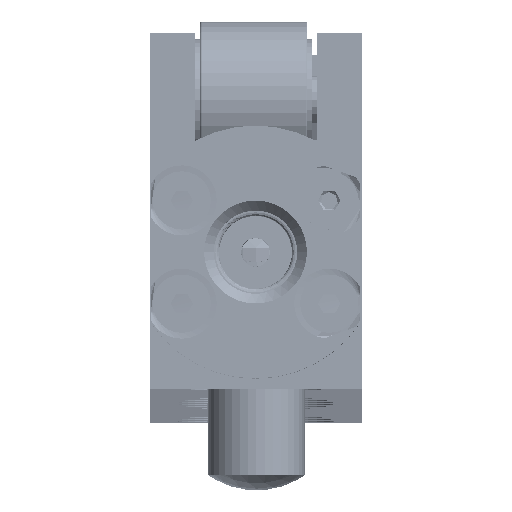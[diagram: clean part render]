
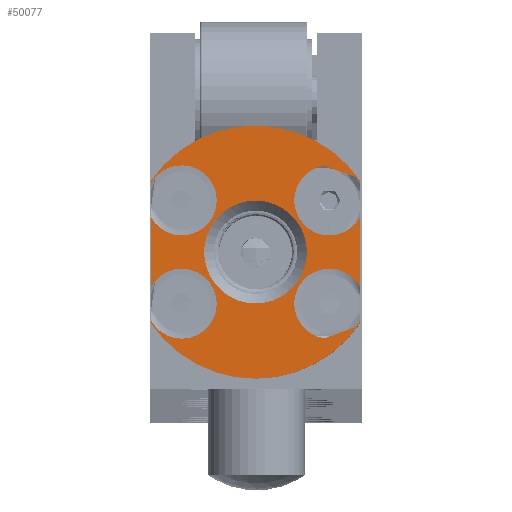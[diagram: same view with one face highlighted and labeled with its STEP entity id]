
A CAD part, top view. The second image highlights one B-rep face of the part: STEP entity #50077.
In plain terms, the highlighted planar face has unit normal (0, 0, 1).
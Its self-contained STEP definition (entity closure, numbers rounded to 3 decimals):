
#1818=FACE_BOUND('',#7761,.T.);
#2243=PLANE('',#54739);
#4720=FACE_OUTER_BOUND('',#7760,.T.);
#7760=EDGE_LOOP('',(#37721,#37722,#37723,#37724,#37725,#37726,#37727,#37728,
#37729,#37730,#37731,#37732,#37733,#37734,#37735,#37736));
#7761=EDGE_LOOP('',(#37737));
#10436=LINE('',#90156,#12257);
#10437=LINE('',#90159,#12258);
#10438=LINE('',#90163,#12259);
#10439=LINE('',#90167,#12260);
#10440=LINE('',#90171,#12261);
#10441=LINE('',#90175,#12262);
#10442=LINE('',#90179,#12263);
#10443=LINE('',#90182,#12264);
#12257=VECTOR('',#66389,10.);
#12258=VECTOR('',#66392,10.);
#12259=VECTOR('',#66395,10.);
#12260=VECTOR('',#66398,10.);
#12261=VECTOR('',#66401,10.);
#12262=VECTOR('',#66404,10.);
#12263=VECTOR('',#66407,10.);
#12264=VECTOR('',#66410,10.);
#14754=CIRCLE('',#54732,3.6);
#14757=CIRCLE('',#54735,3.6);
#14759=CIRCLE('',#54740,3.6);
#14760=CIRCLE('',#54741,3.6);
#14761=CIRCLE('',#54742,13.);
#14762=CIRCLE('',#54743,3.6);
#14763=CIRCLE('',#54744,3.6);
#14764=CIRCLE('',#54745,13.);
#14765=CIRCLE('',#54746,5.283);
#20325=VERTEX_POINT('',#90130);
#20326=VERTEX_POINT('',#90131);
#20327=VERTEX_POINT('',#90135);
#20331=VERTEX_POINT('',#90146);
#20333=VERTEX_POINT('',#90158);
#20334=VERTEX_POINT('',#90160);
#20335=VERTEX_POINT('',#90162);
#20336=VERTEX_POINT('',#90164);
#20337=VERTEX_POINT('',#90166);
#20338=VERTEX_POINT('',#90168);
#20339=VERTEX_POINT('',#90170);
#20340=VERTEX_POINT('',#90172);
#20341=VERTEX_POINT('',#90174);
#20342=VERTEX_POINT('',#90176);
#20343=VERTEX_POINT('',#90178);
#20344=VERTEX_POINT('',#90180);
#20345=VERTEX_POINT('',#90183);
#26729=EDGE_CURVE('',#20327,#20325,#14754,.T.);
#26735=EDGE_CURVE('',#20326,#20331,#14757,.T.);
#26738=EDGE_CURVE('',#20331,#20327,#10436,.T.);
#26739=EDGE_CURVE('',#20325,#20333,#10437,.T.);
#26740=EDGE_CURVE('',#20333,#20334,#14759,.T.);
#26741=EDGE_CURVE('',#20334,#20335,#10438,.T.);
#26742=EDGE_CURVE('',#20335,#20336,#14760,.T.);
#26743=EDGE_CURVE('',#20336,#20337,#10439,.T.);
#26744=EDGE_CURVE('',#20338,#20337,#14761,.T.);
#26745=EDGE_CURVE('',#20338,#20339,#10440,.T.);
#26746=EDGE_CURVE('',#20339,#20340,#14762,.T.);
#26747=EDGE_CURVE('',#20340,#20341,#10441,.T.);
#26748=EDGE_CURVE('',#20341,#20342,#14763,.T.);
#26749=EDGE_CURVE('',#20342,#20343,#10442,.T.);
#26750=EDGE_CURVE('',#20344,#20343,#14764,.T.);
#26751=EDGE_CURVE('',#20344,#20326,#10443,.T.);
#26752=EDGE_CURVE('',#20345,#20345,#14765,.T.);
#37721=ORIENTED_EDGE('',*,*,#26735,.T.);
#37722=ORIENTED_EDGE('',*,*,#26738,.T.);
#37723=ORIENTED_EDGE('',*,*,#26729,.T.);
#37724=ORIENTED_EDGE('',*,*,#26739,.T.);
#37725=ORIENTED_EDGE('',*,*,#26740,.T.);
#37726=ORIENTED_EDGE('',*,*,#26741,.T.);
#37727=ORIENTED_EDGE('',*,*,#26742,.T.);
#37728=ORIENTED_EDGE('',*,*,#26743,.T.);
#37729=ORIENTED_EDGE('',*,*,#26744,.F.);
#37730=ORIENTED_EDGE('',*,*,#26745,.T.);
#37731=ORIENTED_EDGE('',*,*,#26746,.T.);
#37732=ORIENTED_EDGE('',*,*,#26747,.T.);
#37733=ORIENTED_EDGE('',*,*,#26748,.T.);
#37734=ORIENTED_EDGE('',*,*,#26749,.T.);
#37735=ORIENTED_EDGE('',*,*,#26750,.F.);
#37736=ORIENTED_EDGE('',*,*,#26751,.T.);
#37737=ORIENTED_EDGE('',*,*,#26752,.F.);
#50077=ADVANCED_FACE('',(#4720,#1818),#2243,.T.);
#54732=AXIS2_PLACEMENT_3D('',#90136,#66373,#66374);
#54735=AXIS2_PLACEMENT_3D('',#90150,#66380,#66381);
#54739=AXIS2_PLACEMENT_3D('',#90157,#66390,#66391);
#54740=AXIS2_PLACEMENT_3D('',#90161,#66393,#66394);
#54741=AXIS2_PLACEMENT_3D('',#90165,#66396,#66397);
#54742=AXIS2_PLACEMENT_3D('',#90169,#66399,#66400);
#54743=AXIS2_PLACEMENT_3D('',#90173,#66402,#66403);
#54744=AXIS2_PLACEMENT_3D('',#90177,#66405,#66406);
#54745=AXIS2_PLACEMENT_3D('',#90181,#66408,#66409);
#54746=AXIS2_PLACEMENT_3D('',#90184,#66411,#66412);
#66373=DIRECTION('center_axis',(0.,0.,-1.));
#66374=DIRECTION('ref_axis',(-0.342,0.94,0.));
#66380=DIRECTION('center_axis',(0.,0.,-1.));
#66381=DIRECTION('ref_axis',(-0.342,0.94,0.));
#66389=DIRECTION('',(-0.94,-0.342,0.));
#66390=DIRECTION('center_axis',(0.,0.,1.));
#66391=DIRECTION('ref_axis',(1.,0.,0.));
#66392=DIRECTION('',(0.,1.,0.));
#66393=DIRECTION('center_axis',(0.,0.,-1.));
#66394=DIRECTION('ref_axis',(-0.342,-0.94,0.));
#66395=DIRECTION('',(0.94,-0.342,0.));
#66396=DIRECTION('center_axis',(0.,0.,-1.));
#66397=DIRECTION('ref_axis',(-0.342,-0.94,0.));
#66398=DIRECTION('',(0.,1.,0.));
#66399=DIRECTION('center_axis',(0.,0.,-1.));
#66400=DIRECTION('ref_axis',(0.,1.,0.));
#66401=DIRECTION('',(0.,-1.,0.));
#66402=DIRECTION('center_axis',(0.,0.,-1.));
#66403=DIRECTION('ref_axis',(1.,0.,0.));
#66404=DIRECTION('',(0.,-1.,0.));
#66405=DIRECTION('center_axis',(0.,0.,-1.));
#66406=DIRECTION('ref_axis',(1.,0.,0.));
#66407=DIRECTION('',(0.,-1.,0.));
#66408=DIRECTION('center_axis',(0.,0.,-1.));
#66409=DIRECTION('ref_axis',(0.,1.,0.));
#66410=DIRECTION('',(0.,1.,0.));
#66411=DIRECTION('center_axis',(0.,0.,1.));
#66412=DIRECTION('ref_axis',(-1.,0.,0.));
#90130=CARTESIAN_POINT('',(10.7,-7.855,1516.));
#90131=CARTESIAN_POINT('',(10.7,-11.256,1516.));
#90135=CARTESIAN_POINT('',(7.014,-13.119,1516.));
#90136=CARTESIAN_POINT('Origin',(7.527,-9.556,1516.));
#90146=CARTESIAN_POINT('',(10.211,-11.955,1516.));
#90150=CARTESIAN_POINT('Origin',(7.527,-9.556,1516.));
#90156=CARTESIAN_POINT('',(8.106,-12.721,1516.));
#90157=CARTESIAN_POINT('Origin',(-0.05,2.25,1516.));
#90158=CARTESIAN_POINT('',(10.7,-0.645,1516.));
#90159=CARTESIAN_POINT('',(10.7,-4.655,1516.));
#90160=CARTESIAN_POINT('',(7.014,4.619,1516.));
#90161=CARTESIAN_POINT('Origin',(7.527,1.056,1516.));
#90162=CARTESIAN_POINT('',(10.211,3.455,1516.));
#90163=CARTESIAN_POINT('',(6.017,4.982,1516.));
#90164=CARTESIAN_POINT('',(10.7,2.756,1516.));
#90165=CARTESIAN_POINT('Origin',(7.527,1.056,1516.));
#90166=CARTESIAN_POINT('',(10.7,3.06,1516.));
#90167=CARTESIAN_POINT('',(10.7,-4.655,1516.));
#90168=CARTESIAN_POINT('',(-10.8,3.06,1516.));
#90169=CARTESIAN_POINT('Origin',(-0.05,-4.25,1516.));
#90170=CARTESIAN_POINT('',(-10.8,2.756,1516.));
#90171=CARTESIAN_POINT('',(-10.8,2.655,1516.));
#90172=CARTESIAN_POINT('',(-10.8,-0.645,1516.));
#90173=CARTESIAN_POINT('Origin',(-7.627,1.056,1516.));
#90174=CARTESIAN_POINT('',(-10.8,-7.855,1516.));
#90175=CARTESIAN_POINT('',(-10.8,2.655,1516.));
#90176=CARTESIAN_POINT('',(-10.8,-11.256,1516.));
#90177=CARTESIAN_POINT('Origin',(-7.627,-9.556,1516.));
#90178=CARTESIAN_POINT('',(-10.8,-11.56,1516.));
#90179=CARTESIAN_POINT('',(-10.8,2.655,1516.));
#90180=CARTESIAN_POINT('',(10.7,-11.56,1516.));
#90181=CARTESIAN_POINT('Origin',(-0.05,-4.25,1516.));
#90182=CARTESIAN_POINT('',(10.7,-4.655,1516.));
#90183=CARTESIAN_POINT('',(5.233,-4.25,1516.));
#90184=CARTESIAN_POINT('Origin',(-0.05,-4.25,1516.));
